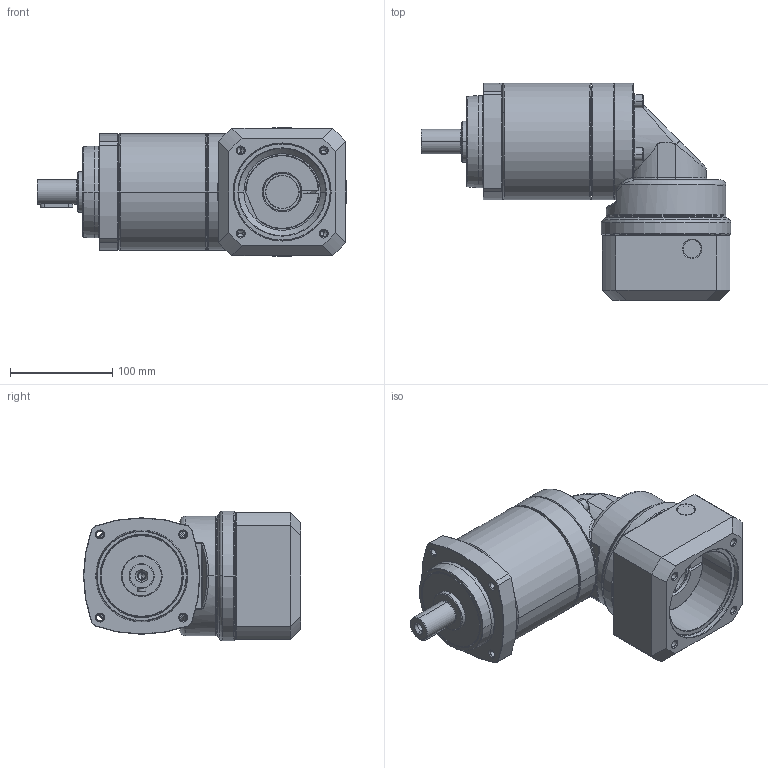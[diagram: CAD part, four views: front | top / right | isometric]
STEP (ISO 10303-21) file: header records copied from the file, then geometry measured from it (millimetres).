
FILE_DESCRIPTION((''),'2;1');
FILE_NAME('PS2R-D_2ST_32-P0411700101_ASM','2016-06-01T',('d01943'),(''),'PRO/ENGINEER BY PARAMETRIC TECHNOLOGY CORPORATION, 2008410','PRO/ENGINEER BY PARAMETRIC TECHNOLOGY CORPORATION, 2008410','');
FILE_SCHEMA(('CONFIG_CONTROL_DESIGN'));
Length unit declared in the file: millimetre
Products named in the file (12): P1328410001; P0251400001; P0350401401; P1349400001; P1017400001; P0713403001; P0503700010; P1350400301; P0411700101; P1702600001; 2111B108035; PS2R-D_2ST_32-P0411700101_ASM
Assembly tree (14 placements, depth 2):
  PS2R-D_2ST_32-P0411700101_ASM
    P1328410001
    P0251400001
    P0350401401
    P1349400001
    P1017400001
    P0713403001
    P0503700010
    P1350400301
    P0411700101
    P1702600001
    2111B108035  x4
Bounding box: 303.5 x 212.5 x 127 mm (x, y, z)
Volume: 2138505.3 mm3; surface area: 390507.2 mm2
Topology: 14 solids, 14 shells, 715 faces, 1582 edges, 916 vertices
Faces by surface type: cylinder 218, cone 212, plane 155, torus 96, bspline 34
Entity records: 23080 total; most frequent: CARTESIAN_POINT 9252, DIRECTION 3051, ORIENTED_EDGE 2688, EDGE_CURVE 1344, AXIS2_PLACEMENT_3D 1292, VERTEX_POINT 796, EDGE_LOOP 696, CIRCLE 684
